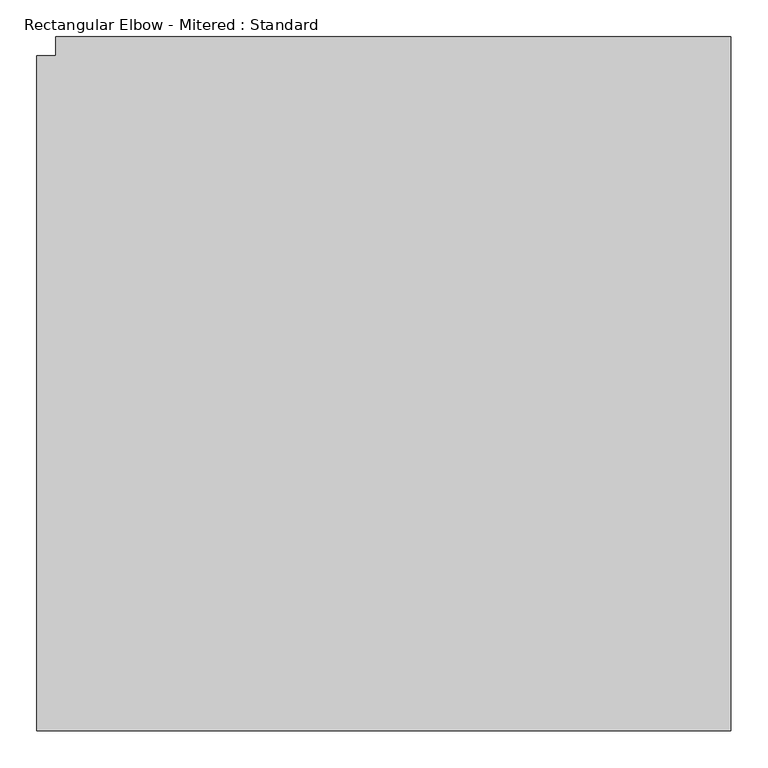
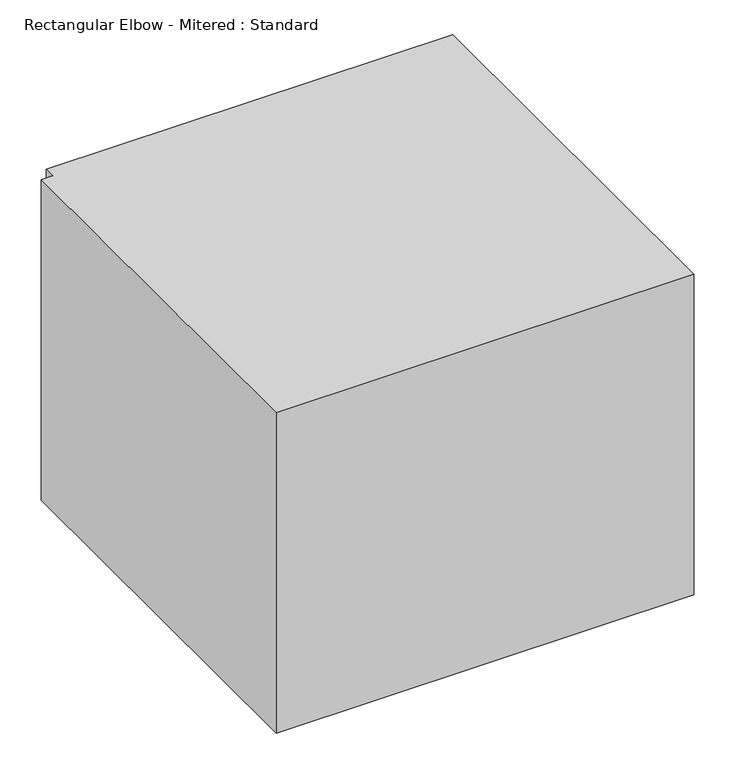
"""IFC4 building model written with IfcOpenShell, lengths in millimetres: duct fitting geometry, Rectangular Elbow - Mitered : Standard."""

import ifcopenshell
import ifcopenshell.guid

model = None  # the IFC model being written
_history = None  # IfcOwnerHistory: only IFC2X3 demands one
_inside = {}  # id of a spatial element -> (the spatial element, [elements in it])
_under = {}  # id of a project, library or spatial element -> (it, [spatial elements below it])
_declared = {}  # id of a project -> (the project, [libraries it declares])
_typed = {}  # id of a type object -> (the type object, [elements of that type])
_made_of = {}  # id of a material, layer set ... -> (it, [elements and type objects made of it])


def new_model(schema):
    """Start an empty IFC model of exactly this schema.

    Asked for "IFC4X3", IfcOpenShell would pick the latest addendum, in which some entities
    have other attributes; the version numbers below select the first issue.
    IFC2X3 requires an IfcOwnerHistory on every rooted entity: one is made here for all.
    """
    global model, _history
    if schema == "IFC4X3":
        model = ifcopenshell.file(schema_version=(4, 3, 0, 0))
    else:
        model = ifcopenshell.file(schema=schema)
    _inside.clear()
    _under.clear()
    _declared.clear()
    _typed.clear()
    _made_of.clear()
    _history = None
    if model.schema == "IFC2X3":
        org = make("IfcOrganization", Name="unknown")
        user = make(
            "IfcPersonAndOrganization",
            ThePerson=make("IfcPerson", FamilyName="unknown"),
            TheOrganization=org,
        )
        app = make(
            "IfcApplication",
            ApplicationDeveloper=org,
            Version="unknown",
            ApplicationFullName="unknown",
            ApplicationIdentifier="unknown",
        )
        _history = make(
            "IfcOwnerHistory",
            OwningUser=user,
            OwningApplication=app,
            ChangeAction="ADDED",
            CreationDate=0,
        )
    return model


def make(cls, **values):
    """One entity of the class cls with the attributes given. An attribute that is None is left unset."""
    return model.create_entity(
        cls, **{name: value for name, value in values.items() if value is not None}
    )


def rooted(cls, **values):
    """An entity with a GlobalId (a new one), such as an element, a storey or a relation."""
    return make(cls, GlobalId=ifcopenshell.guid.new(), OwnerHistory=_history, **values)


def si_unit(unit_type, name, prefix=None):
    """IfcSIUnit, for example si_unit("LENGTHUNIT", "METRE", prefix="MILLI")."""
    return make("IfcSIUnit", UnitType=unit_type, Prefix=prefix, Name=name)


def assignment(units):
    """IfcUnitAssignment: the units of a project."""
    return None if units is None else make("IfcUnitAssignment", Units=units)


def point(xyz):
    """IfcCartesianPoint."""
    return None if xyz is None else make("IfcCartesianPoint", Coordinates=xyz)


def direction(xyz):
    """IfcDirection."""
    return None if xyz is None else make("IfcDirection", DirectionRatios=xyz)


def frame(location, z_axis=None, x_axis=None):
    """IfcAxis2Placement3D, a coordinate frame: its origin and axes. An axis left out is left unset."""
    return make(
        "IfcAxis2Placement3D",
        Location=point(location),
        Axis=direction(z_axis),
        RefDirection=direction(x_axis),
    )


def origin():
    """The frame at (0, 0, 0) with its axes left unset."""
    return frame((0.0, 0.0, 0.0))


def place(relative_to, where):
    """IfcLocalPlacement: puts the frame where relative to a parent placement (None: the world)."""
    return make(
        "IfcLocalPlacement", PlacementRelTo=relative_to, RelativePlacement=where
    )


def context(
    kind, dimensions, precision=None, world=None, true_north=None, identifier=None
):
    """IfcGeometricRepresentationContext, for example the 3D "Model" context."""
    return make(
        "IfcGeometricRepresentationContext",
        ContextIdentifier=identifier,
        ContextType=kind,
        CoordinateSpaceDimension=dimensions,
        Precision=precision,
        WorldCoordinateSystem=world,
        TrueNorth=true_north,
    )


def project(units=None, contexts=None):
    """IfcProject with its units and contexts."""
    return rooted(
        "IfcProject",
        Name="project",
        RepresentationContexts=contexts,
        UnitsInContext=assignment(units),
    )


def spatial(cls, under=None, at=None, **own):
    """A site, building, storey or space (cls), placed at a placement, below another one or the project."""
    s = rooted(cls, ObjectPlacement=at, **own)
    if under is not None:
        _under.setdefault(under.id(), (under, []))[1].append(s)
    return s


def polyline(points):
    """IfcPolyline through the points."""
    return make("IfcPolyline", Points=[point(p) for p in points])


def outline(outer, holes=None, kind="AREA"):
    """IfcArbitraryClosedProfileDef: a profile drawn as a closed curve; with holes, ...WithVoids."""
    if holes is None:
        return make("IfcArbitraryClosedProfileDef", ProfileType=kind, OuterCurve=outer)
    return make(
        "IfcArbitraryProfileDefWithVoids",
        ProfileType=kind,
        OuterCurve=outer,
        InnerCurves=holes,
    )


def extrude(swept, where, along, depth):
    """IfcExtrudedAreaSolid: the profile swept, set in the frame where, extruded along a direction by depth."""
    return make(
        "IfcExtrudedAreaSolid",
        SweptArea=swept,
        Position=where,
        ExtrudedDirection=direction(along),
        Depth=depth,
    )


def shape(context_of_items, identifier, shape_type, items):
    """IfcShapeRepresentation: the items that make up one representation, for example the "Body"."""
    return make(
        "IfcShapeRepresentation",
        ContextOfItems=context_of_items,
        RepresentationIdentifier=identifier,
        RepresentationType=shape_type,
        Items=items,
    )


def source(mapping_origin, context_of_items, identifier, shape_type, items):
    """IfcRepresentationMap: a shape defined once, which mapped items show again and again."""
    return make(
        "IfcRepresentationMap",
        MappingOrigin=mapping_origin,
        MappedRepresentation=shape(context_of_items, identifier, shape_type, items),
    )


def transform(
    local_origin,
    x_axis=None,
    y_axis=None,
    z_axis=None,
    scale=None,
    scale2=None,
    scale3=None,
    uniform=True,
):
    """IfcCartesianTransformationOperator3D, or its non-uniform kind. x_axis, y_axis, z_axis: its Axis1, 2, 3."""
    if uniform:
        return make(
            "IfcCartesianTransformationOperator3D",
            Axis1=direction(x_axis),
            Axis2=direction(y_axis),
            LocalOrigin=point(local_origin),
            Scale=scale,
            Axis3=direction(z_axis),
        )
    return make(
        "IfcCartesianTransformationOperator3DnonUniform",
        Axis1=direction(x_axis),
        Axis2=direction(y_axis),
        LocalOrigin=point(local_origin),
        Scale=scale,
        Axis3=direction(z_axis),
        Scale2=scale2,
        Scale3=scale3,
    )


def mapped(mapping_source, mapping_target):
    """IfcMappedItem: shows the shape of a source again, moved by a transform."""
    return make(
        "IfcMappedItem", MappingSource=mapping_source, MappingTarget=mapping_target
    )


def made_of(thing, what):
    """Note that an element or type object is made of a material, layer set ...; save() writes the relation."""
    if what is not None:
        _made_of.setdefault(what.id(), (what, []))[1].append(thing)
    return thing


def element(
    cls,
    number,
    at=None,
    inside=None,
    cuts=None,
    type_object=None,
    material=None,
    context=None,
    identifier="Body",
    shape_type=None,
    held_by="IfcProductDefinitionShape",
    body=None,
    shapes=None,
    **own,
):
    """One element of the class cls, such as IfcWall. Its Tag is "e" and its number.

    at: its placement. inside: the storey or other place that contains it. cuts: it is an
    opening in that element (IfcRelVoidsElement). A single representation is given by context,
    identifier, shape_type and body (its items); several are given by shapes. held_by: the class
    of the entity that holds the representations. save() writes the other relations.
    """
    e = rooted(cls, Tag="e%d" % number, ObjectPlacement=at, **own)
    if body is not None:
        shapes = [shape(context, identifier, shape_type, body)]
    if shapes is not None:
        e.Representation = make(held_by, Representations=shapes)
    if inside is not None:
        _inside.setdefault(inside.id(), (inside, []))[1].append(e)
    if cuts is not None:
        rooted(
            "IfcRelVoidsElement", RelatingBuildingElement=cuts, RelatedOpeningElement=e
        )
    if type_object is not None:
        _typed.setdefault(type_object.id(), (type_object, []))[1].append(e)
    return made_of(e, material)


def aggregate(whole, parts):
    """IfcRelAggregates: a whole, such as a stair, and the parts it consists of."""
    return rooted("IfcRelAggregates", RelatingObject=whole, RelatedObjects=parts)


def save(model, path):
    """Write the relations noted so far, then the file.

    IfcRelAggregates (storeys below a building ...), IfcRelContainedInSpatialStructure (elements
    in a storey), IfcRelDefinesByType, IfcRelAssociatesMaterial and IfcRelDeclares: one each for
    every whole, place, type object, material and project.
    """
    for whole, parts in _under.values():
        aggregate(whole, parts)
    for where, things in _inside.values():
        rooted(
            "IfcRelContainedInSpatialStructure",
            RelatedElements=things,
            RelatingStructure=where,
        )
    for kind, things in _typed.values():
        rooted("IfcRelDefinesByType", RelatedObjects=things, RelatingType=kind)
    for what, things in _made_of.values():
        rooted("IfcRelAssociatesMaterial", RelatedObjects=things, RelatingMaterial=what)
    for by, libraries in _declared.values():
        rooted("IfcRelDeclares", RelatingContext=by, RelatedDefinitions=libraries)
    model.write(path)


def rectangular_elbow_mitered_standard_415135ef(model_context):
    return source(origin(), model_context, "Body", "SweptSolid", [
        extrude(outline(polyline([(-482.6, -457.2), (-482.6, 457.2), (-457.2, 457.2), (-457.2, 482.6), (457.2, 482.6), (457.2, -457.2), (-482.6, -457.2)])), frame((0.0, 0.0, -381.0), z_axis=(0.0, 0.0, 1.0), x_axis=(1.0, 0.0, 0.0)), (0.0, 0.0, 1.0), 762.0),
    ])


if __name__ == "__main__":
    model = new_model("IFC4")
    model_context = context("Model", 3, world=origin())
    ifc_project = project(units=[si_unit("LENGTHUNIT", "METRE", prefix="MILLI")], contexts=[model_context])
    site = spatial("IfcSite", under=ifc_project)
    building = spatial("IfcBuilding", under=site)
    placement = place(None, origin())
    rectangular_elbow_mitered_standard_shape = rectangular_elbow_mitered_standard_415135ef(model_context)
    element("IfcDuctFitting", 1, ObjectType="Rectangular Elbow - Mitered : Standard", at=placement, inside=building, context=model_context, shape_type="MappedRepresentation", body=[
        mapped(rectangular_elbow_mitered_standard_shape, transform((0.0, 0.0, 0.0), x_axis=(1.0, 0.0, 0.0), y_axis=(0.0, 1.0, 0.0), z_axis=(0.0, 0.0, 1.0))),
    ])
    save(model, "model.ifc")
